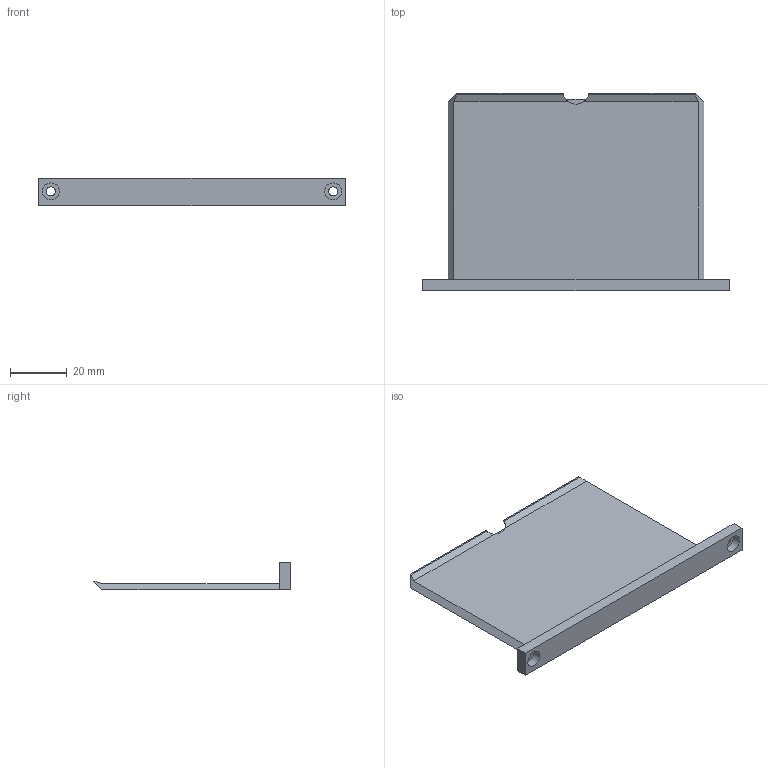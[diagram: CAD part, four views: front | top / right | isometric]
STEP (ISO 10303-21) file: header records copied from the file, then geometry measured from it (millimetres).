
FILE_DESCRIPTION(/* description */ (''),/* implementation_level */ '2;1');
FILE_NAME(/* name */ '6-03-1 Battery cover.step',/* time_stamp */ '2025-05-10T22:36:46+02:00',/* author */ (''),/* organization */ (''),/* preprocessor_version */ 'ST-DEVELOPER v20.1',/* originating_system */ 'Autodesk Translation Framework v14.4.0.0',/* authorisation */ '');
FILE_SCHEMA (('AUTOMOTIVE_DESIGN { 1 0 10303 214 3 1 1 }'));
Length unit declared in the file: millimetre
Products named in the file (1): 6-03-1 Battery cover
Bounding box: 108.43 x 69.75 x 9.6 mm (x, y, z)
Volume: 15330.2 mm3; surface area: 15025.7 mm2
Topology: 1 solids, 1 shells, 28 faces, 72 edges, 48 vertices
Faces by surface type: plane 21, cylinder 7
Full cylindrical faces by diameter (mm): 3.2 x2, 6 x2
Entity records: 906 total; most frequent: DIRECTION 152, CARTESIAN_POINT 149, ORIENTED_EDGE 144, EDGE_CURVE 72, AXIS2_PLACEMENT_3D 51, LINE 50, VECTOR 50, VERTEX_POINT 48
